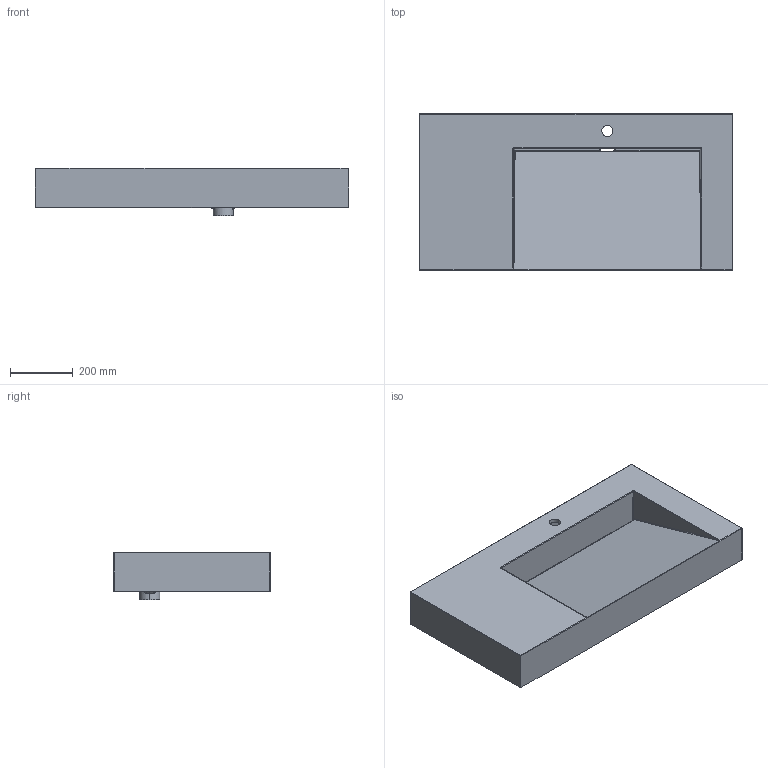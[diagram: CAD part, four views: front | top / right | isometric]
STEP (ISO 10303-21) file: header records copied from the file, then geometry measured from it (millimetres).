
FILE_DESCRIPTION (( 'STEP AP203' ), '1' );
FILE_NAME ('PW12-C.STEP', '2016-03-21T05:48:11', ( '旮僅薊襠http://www.deepbbs.org' ), ( 'http://www.deepbbs.org' ), 'SwSTEP 2.0', 'SolidWorks 2014', '' );
FILE_SCHEMA (( 'CONFIG_CONTROL_DESIGN' ));
Length unit declared in the file: millimetre
Products named in the file (1): PW12-C
Bounding box: 1000 x 500 x 152 mm (x, y, z)
Volume: 12724430.9 mm3; surface area: 1943008.9 mm2
Topology: 1 solids, 1 shells, 205 faces, 509 edges, 286 vertices
Faces by surface type: cylinder 94, plane 53, bspline 26, sphere 25, torus 7
Entity records: 7178 total; most frequent: CARTESIAN_POINT 2629, ORIENTED_EDGE 980, DIRECTION 908, EDGE_CURVE 490, AXIS2_PLACEMENT_3D 337, VERTEX_POINT 286, VECTOR 234, LINE 234
